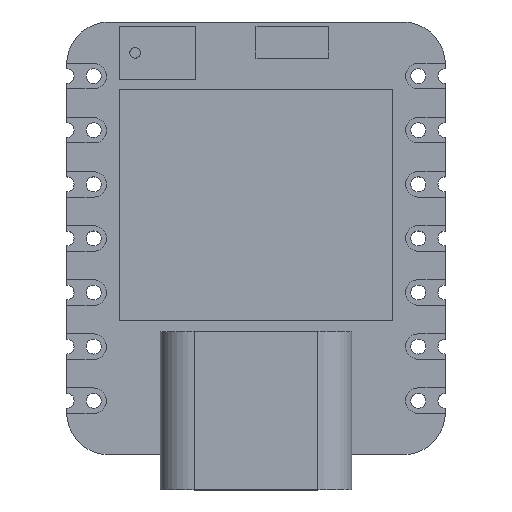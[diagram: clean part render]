
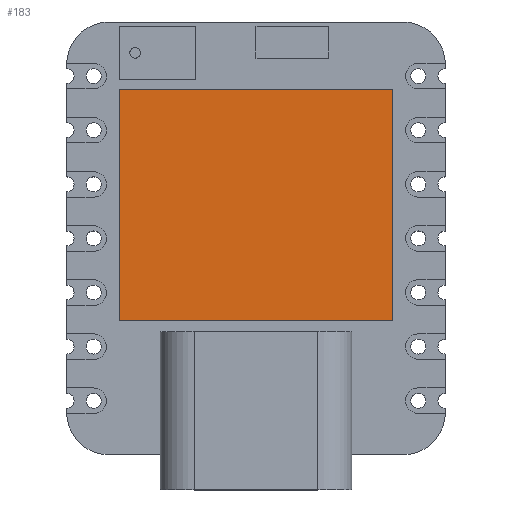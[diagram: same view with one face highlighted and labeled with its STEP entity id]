
A CAD part, top view. The second image highlights one B-rep face of the part: STEP entity #183.
In plain terms, the highlighted planar face has unit normal (0, 0, 1).
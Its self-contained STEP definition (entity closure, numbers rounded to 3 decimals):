
#54 = VERTEX_POINT('',#55);
#55 = CARTESIAN_POINT('',(-6.425,7.01,3.));
#61 = EDGE_CURVE('',#54,#62,#64,.T.);
#62 = VERTEX_POINT('',#63);
#63 = CARTESIAN_POINT('',(-6.425,-3.84,3.));
#64 = LINE('',#65,#66);
#65 = CARTESIAN_POINT('',(-6.425,7.01,3.));
#66 = VECTOR('',#67,1.);
#67 = DIRECTION('',(0.,-1.,0.));
#92 = EDGE_CURVE('',#62,#93,#95,.T.);
#93 = VERTEX_POINT('',#94);
#94 = CARTESIAN_POINT('',(6.425,-3.84,3.));
#95 = LINE('',#96,#97);
#96 = CARTESIAN_POINT('',(-6.425,-3.84,3.));
#97 = VECTOR('',#98,1.);
#98 = DIRECTION('',(1.,0.,0.));
#123 = EDGE_CURVE('',#93,#124,#126,.T.);
#124 = VERTEX_POINT('',#125);
#125 = CARTESIAN_POINT('',(6.425,7.01,3.));
#126 = LINE('',#127,#128);
#127 = CARTESIAN_POINT('',(6.425,-3.84,3.));
#128 = VECTOR('',#129,1.);
#129 = DIRECTION('',(0.,1.,0.));
#154 = EDGE_CURVE('',#124,#54,#155,.T.);
#155 = LINE('',#156,#157);
#156 = CARTESIAN_POINT('',(6.425,7.01,3.));
#157 = VECTOR('',#158,1.);
#158 = DIRECTION('',(-1.,0.,0.));
#183 = ADVANCED_FACE('',(#184),#190,.T.);
#184 = FACE_BOUND('',#185,.T.);
#185 = EDGE_LOOP('',(#186,#187,#188,#189));
#186 = ORIENTED_EDGE('',*,*,#61,.T.);
#187 = ORIENTED_EDGE('',*,*,#92,.T.);
#188 = ORIENTED_EDGE('',*,*,#123,.T.);
#189 = ORIENTED_EDGE('',*,*,#154,.T.);
#190 = PLANE('',#191);
#191 = AXIS2_PLACEMENT_3D('',#192,#193,#194);
#192 = CARTESIAN_POINT('',(0.,1.585,3.));
#193 = DIRECTION('',(0.,0.,1.));
#194 = DIRECTION('',(1.,0.,0.));
